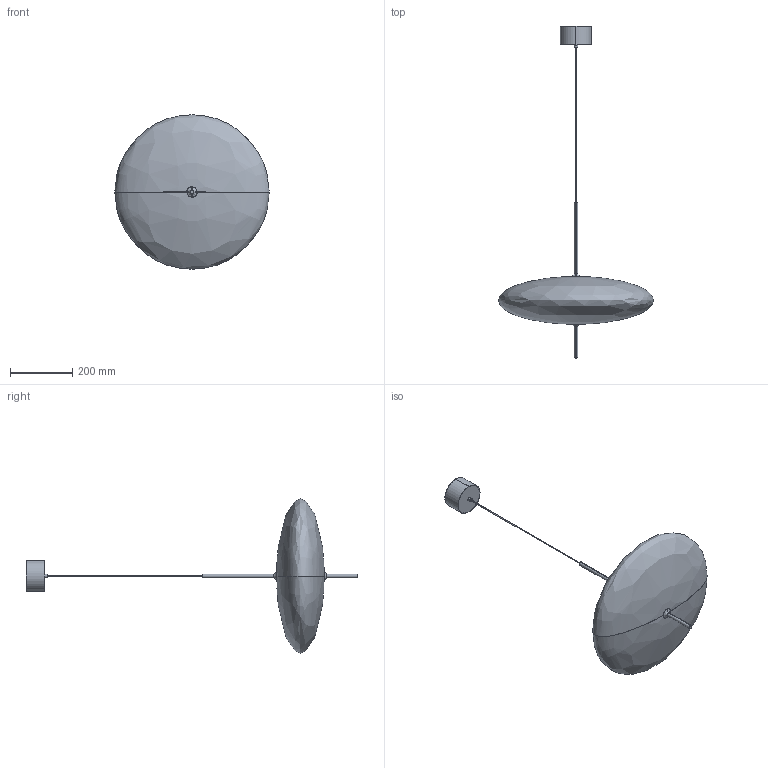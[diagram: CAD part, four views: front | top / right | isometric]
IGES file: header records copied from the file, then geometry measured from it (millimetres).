
Start section: SolidWorks IGES file using analytic representation for surfaces
Global section: file name: F:\李明祥\3D\6月\待上传的3D\Model 2065 Pendant Lamp.IGS; native system: SolidWorks 2022; preprocessor: SolidWorks 2022; author: MyPC; date: 230617.111405; units: millimetre
Bounding box: 497.35 x 1068.85 x 497.35 mm (x, y, z)
Surface area: 539883.7 mm2 (no closed solid volume)
Topology: 0 solids, 0 shells, 35 faces, 792 edges, 792 vertices
Faces by surface type: bspline 21, revolution 14
